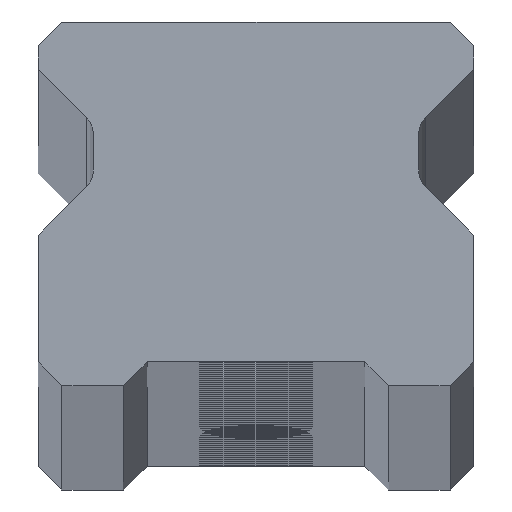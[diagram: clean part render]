
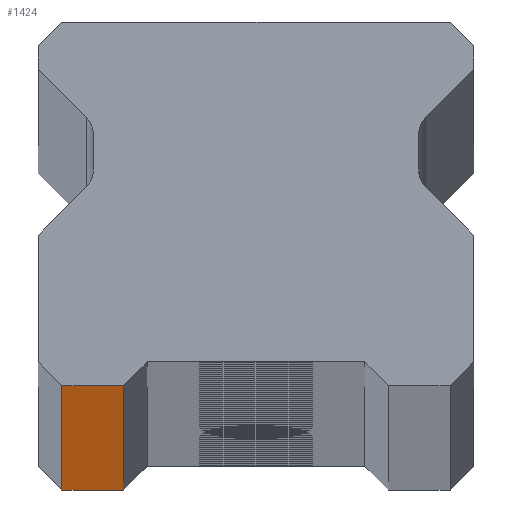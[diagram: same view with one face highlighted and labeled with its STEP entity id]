
A CAD part, top view. The second image highlights one B-rep face of the part: STEP entity #1424.
In plain terms, the highlighted planar face has unit normal (0, -1, 0).
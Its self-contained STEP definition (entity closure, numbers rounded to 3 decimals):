
#122 = VERTEX_POINT ( 'NONE', #2247 ) ;
#220 = VERTEX_POINT ( 'NONE', #2394 ) ;
#725 = EDGE_CURVE ( 'NONE', #4389, #122, #9430, .T. ) ;
#794 = LINE ( 'NONE', #3628, #9289 ) ;
#987 = VECTOR ( 'NONE', #7115, 1000. ) ;
#1086 = CARTESIAN_POINT ( 'NONE',  ( 11.5, 0., 1580. ) ) ;
#1424 = ADVANCED_FACE ( 'NONE', ( #1561 ), #7754, .F. ) ;
#1435 = EDGE_CURVE ( 'NONE', #122, #220, #794, .T. ) ;
#1561 = FACE_OUTER_BOUND ( 'NONE', #3644, .T. ) ;
#1651 = CARTESIAN_POINT ( 'NONE',  ( -10.25, 0., 1580. ) ) ;
#1763 = LINE ( 'NONE', #5539, #987 ) ;
#2247 = CARTESIAN_POINT ( 'NONE',  ( -7., 0., -1580. ) ) ;
#2394 = CARTESIAN_POINT ( 'NONE',  ( -7., 0., 1580. ) ) ;
#2494 = DIRECTION ( 'NONE',  ( 1., 0., 0. ) ) ;
#3160 = AXIS2_PLACEMENT_3D ( 'NONE', #1086, #6811, #4391 ) ;
#3259 = VERTEX_POINT ( 'NONE', #5490 ) ;
#3273 = ORIENTED_EDGE ( 'NONE', *, *, #1435, .T. ) ;
#3628 = CARTESIAN_POINT ( 'NONE',  ( -7., 0., -1580. ) ) ;
#3644 = EDGE_LOOP ( 'NONE', ( #8115, #3273, #9994, #7339 ) ) ;
#4211 = EDGE_CURVE ( 'NONE', #3259, #4389, #6975, .T. ) ;
#4389 = VERTEX_POINT ( 'NONE', #5421 ) ;
#4391 = DIRECTION ( 'NONE',  ( -1., 0., 0. ) ) ;
#5421 = CARTESIAN_POINT ( 'NONE',  ( -10.25, 0., -1580. ) ) ;
#5490 = CARTESIAN_POINT ( 'NONE',  ( -10.25, 0., 1580. ) ) ;
#5539 = CARTESIAN_POINT ( 'NONE',  ( 11.5, 0., 1580. ) ) ;
#6467 = VECTOR ( 'NONE', #2494, 1000. ) ;
#6811 = DIRECTION ( 'NONE',  ( 0., 1., 0. ) ) ;
#6846 = VECTOR ( 'NONE', #7477, 1000. ) ;
#6975 = LINE ( 'NONE', #1651, #6846 ) ;
#7115 = DIRECTION ( 'NONE',  ( 1., 0., 0. ) ) ;
#7177 = EDGE_CURVE ( 'NONE', #3259, #220, #1763, .T. ) ;
#7339 = ORIENTED_EDGE ( 'NONE', *, *, #4211, .T. ) ;
#7477 = DIRECTION ( 'NONE',  ( 0., 0., -1. ) ) ;
#7754 = PLANE ( 'NONE',  #3160 ) ;
#7785 = DIRECTION ( 'NONE',  ( 0., 0., 1. ) ) ;
#8115 = ORIENTED_EDGE ( 'NONE', *, *, #725, .T. ) ;
#8935 = CARTESIAN_POINT ( 'NONE',  ( 11.5, 0., -1580. ) ) ;
#9289 = VECTOR ( 'NONE', #7785, 1000. ) ;
#9430 = LINE ( 'NONE', #8935, #6467 ) ;
#9994 = ORIENTED_EDGE ( 'NONE', *, *, #7177, .F. ) ;
